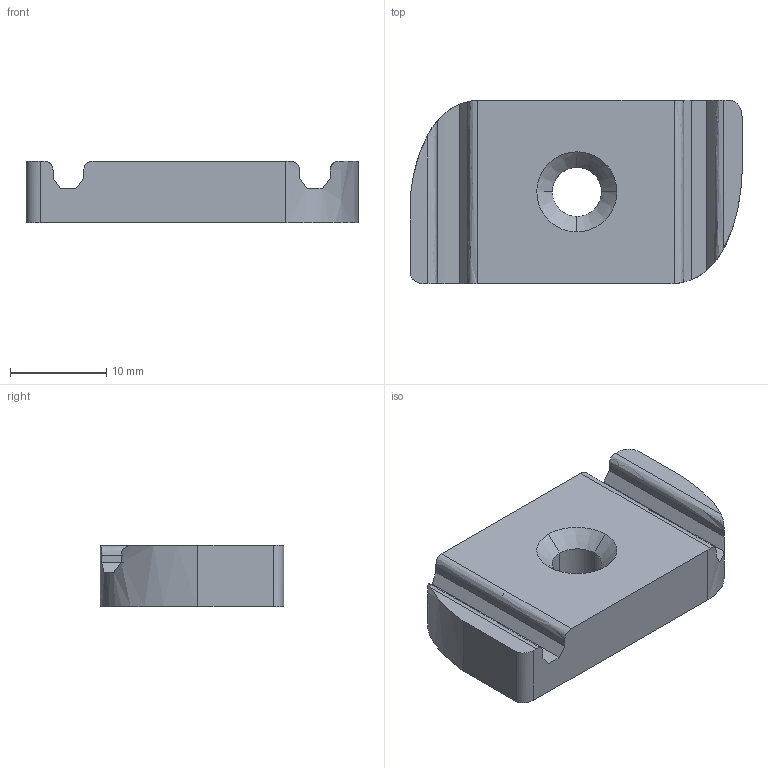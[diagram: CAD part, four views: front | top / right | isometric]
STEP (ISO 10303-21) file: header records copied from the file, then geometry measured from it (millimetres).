
FILE_DESCRIPTION(('TurboCAD Mac Pro'),'Build 980');
FILE_NAME('P3006-1024.stp',' ',(''),(''),'ACIS Interop','IMSI','TurboCAD Mac Pro BY IMSI, INCORPORATED');
FILE_SCHEMA(('automotive_design'));
Length unit declared in the file: inch
Products named in the file (1): 1
Bounding box: 34.45 x 19.05 x 6.35 mm (x, y, z)
Volume: 3485.5 mm3; surface area: 2011.3 mm2
Topology: 1 solids, 1 shells, 34 faces, 92 edges, 60 vertices
Faces by surface type: plane 18, bspline 16
Entity records: 1850 total; most frequent: CARTESIAN_POINT 829, ORIENTED_EDGE 184, EDGE_CURVE 92, DIRECTION 86, VERTEX_POINT 60, LINE 48, VECTOR 48, B_SPLINE_CURVE_WITH_KNOTS 44
